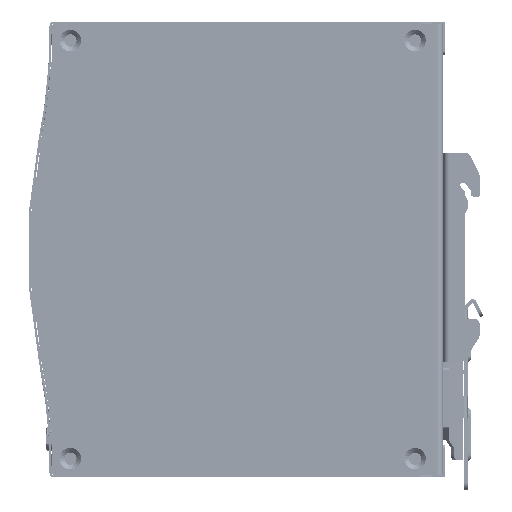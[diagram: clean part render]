
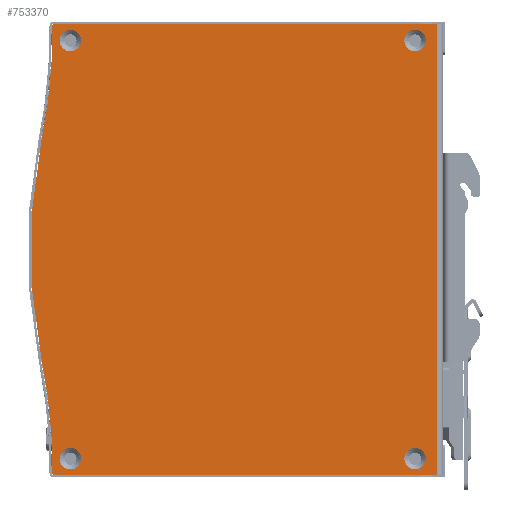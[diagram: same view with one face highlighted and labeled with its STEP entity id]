
A CAD part, front view. The second image highlights one B-rep face of the part: STEP entity #753370.
In plain terms, the highlighted planar face has unit normal (0, -1, 0).
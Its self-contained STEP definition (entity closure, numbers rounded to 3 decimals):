
#747020=CARTESIAN_POINT('',(-8.439,13.236,-50.));
#747030=DIRECTION('',(1.,0.,0.));
#747040=VECTOR('',#747030,1.);
#747050=LINE('',#747020,#747040);
#747060=CARTESIAN_POINT('',(-9.439,13.236,-50.));
#747070=VERTEX_POINT('',#747060);
#747080=CARTESIAN_POINT('',(95.953,13.236,-50.));
#747090=VERTEX_POINT('',#747080);
#747100=EDGE_CURVE('',#747070,#747090,#747050,.T.);
#748290=CARTESIAN_POINT('',(-12.964,13.236,-18.01
));
#748300=VERTEX_POINT('',#748290);
#748330=CARTESIAN_POINT('',(-159.932,13.236,
-48.019));
#748340=DIRECTION('',(0.,1.,0.));
#748350=DIRECTION('',(0.98,0.,0.2));
#748360=AXIS2_PLACEMENT_3D('',#748330,#748340,#748350);
#748370=CIRCLE('',#748360,150.);
#748380=CARTESIAN_POINT('',(-9.939,13.236,
-49.495));
#748390=VERTEX_POINT('',#748380);
#748400=EDGE_CURVE('',#748300,#748390,#748370,.T.);
#751960=CARTESIAN_POINT('',(95.953,13.236,74.));
#751970=VERTEX_POINT('',#751960);
#752000=CARTESIAN_POINT('',(-8.439,13.236,74.));
#752010=DIRECTION('',(1.,0.,0.));
#752020=VECTOR('',#752010,1.);
#752030=LINE('',#752000,#752020);
#752040=CARTESIAN_POINT('',(-9.439,13.236,74.));
#752050=VERTEX_POINT('',#752040);
#752060=EDGE_CURVE('',#752050,#751970,#752030,.T.);
#752220=CARTESIAN_POINT('',(-9.439,13.236,-49.5));
#752230=DIRECTION('',(0.,-1.,0.));
#752240=DIRECTION('',(-1.,0.,0.));
#752250=AXIS2_PLACEMENT_3D('',#752220,#752230,#752240);
#752260=CIRCLE('',#752250,0.5);
#752270=EDGE_CURVE('',#748390,#747070,#752260,.T.);
#752350=CARTESIAN_POINT('',(-13.667,13.236,0.));
#752360=DIRECTION('',(0.,-1.,0.));
#752370=DIRECTION('',(0.,0.,-1.));
#752380=AXIS2_PLACEMENT_3D('',#752350,#752360,#752370);
#752390=PLANE('',#752380);
#752400=CARTESIAN_POINT('',(-4.997,13.236,69.5
));
#752410=DIRECTION('',(0.,-1.,0.));
#752420=DIRECTION('',(-1.,0.,0.));
#752430=AXIS2_PLACEMENT_3D('',#752400,#752410,#752420);
#752440=CIRCLE('',#752430,2.951);
#752450=CARTESIAN_POINT('',(-7.948,13.236,69.5
));
#752460=VERTEX_POINT('',#752450);
#752470=CARTESIAN_POINT('',(-2.046,13.236,69.5
));
#752480=VERTEX_POINT('',#752470);
#752490=EDGE_CURVE('',#752460,#752480,#752440,.T.);
#752500=ORIENTED_EDGE('',*,*,#752490,.F.);
#752510=EDGE_CURVE('',#752480,#752460,#752440,.T.);
#752520=ORIENTED_EDGE('',*,*,#752510,.F.);
#752530=EDGE_LOOP('',(#752520,#752500));
#752540=FACE_BOUND('',#752530,.T.);
#752550=CARTESIAN_POINT('',(89.803,13.236,69.5)
);
#752560=DIRECTION('',(0.,-1.,0.));
#752570=DIRECTION('',(-1.,0.,0.));
#752580=AXIS2_PLACEMENT_3D('',#752550,#752560,#752570);
#752590=CIRCLE('',#752580,2.951);
#752600=CARTESIAN_POINT('',(86.851,13.236,69.5)
);
#752610=VERTEX_POINT('',#752600);
#752620=CARTESIAN_POINT('',(92.754,13.236,69.5)
);
#752630=VERTEX_POINT('',#752620);
#752640=EDGE_CURVE('',#752610,#752630,#752590,.T.);
#752650=ORIENTED_EDGE('',*,*,#752640,.F.);
#752660=EDGE_CURVE('',#752630,#752610,#752590,.T.);
#752670=ORIENTED_EDGE('',*,*,#752660,.F.);
#752680=EDGE_LOOP('',(#752670,#752650));
#752690=FACE_BOUND('',#752680,.T.);
#752700=CARTESIAN_POINT('',(-4.997,13.236,
-45.5));
#752710=DIRECTION('',(0.,-1.,0.));
#752720=DIRECTION('',(-1.,0.,0.));
#752730=AXIS2_PLACEMENT_3D('',#752700,#752710,#752720);
#752740=CIRCLE('',#752730,2.951);
#752750=CARTESIAN_POINT('',(-7.948,13.236,
-45.5));
#752760=VERTEX_POINT('',#752750);
#752770=CARTESIAN_POINT('',(-2.046,13.236,
-45.5));
#752780=VERTEX_POINT('',#752770);
#752790=EDGE_CURVE('',#752760,#752780,#752740,.T.);
#752800=ORIENTED_EDGE('',*,*,#752790,.F.);
#752810=EDGE_CURVE('',#752780,#752760,#752740,.T.);
#752820=ORIENTED_EDGE('',*,*,#752810,.F.);
#752830=EDGE_LOOP('',(#752820,#752800));
#752840=FACE_BOUND('',#752830,.T.);
#752850=CARTESIAN_POINT('',(89.803,13.236,-45.5
));
#752860=DIRECTION('',(0.,-1.,0.));
#752870=DIRECTION('',(-1.,0.,0.));
#752880=AXIS2_PLACEMENT_3D('',#752850,#752860,#752870);
#752890=CIRCLE('',#752880,2.951);
#752900=CARTESIAN_POINT('',(86.851,13.236,-45.5
));
#752910=VERTEX_POINT('',#752900);
#752920=CARTESIAN_POINT('',(92.754,13.236,-45.5
));
#752930=VERTEX_POINT('',#752920);
#752940=EDGE_CURVE('',#752910,#752930,#752890,.T.);
#752950=ORIENTED_EDGE('',*,*,#752940,.F.);
#752960=EDGE_CURVE('',#752930,#752910,#752890,.T.);
#752970=ORIENTED_EDGE('',*,*,#752960,.F.);
#752980=EDGE_LOOP('',(#752970,#752950));
#752990=FACE_BOUND('',#752980,.T.);
#753000=ORIENTED_EDGE('',*,*,#752270,.T.);
#753010=ORIENTED_EDGE('',*,*,#748400,.T.);
#753020=CARTESIAN_POINT('',(134.003,13.236,12.)
);
#753030=DIRECTION('',(0.,-1.,0.));
#753040=DIRECTION('',(-0.98,0.,0.2));
#753050=AXIS2_PLACEMENT_3D('',#753020,#753030,#753040);
#753060=CIRCLE('',#753050,150.);
#753070=CARTESIAN_POINT('',(-12.964,13.236,42.01
));
#753080=VERTEX_POINT('',#753070);
#753090=EDGE_CURVE('',#753080,#748300,#753060,.T.);
#753100=ORIENTED_EDGE('',*,*,#753090,.T.);
#753110=CARTESIAN_POINT('',(-159.932,13.236,72.019
));
#753120=DIRECTION('',(0.,1.,0.));
#753130=DIRECTION('',(1.,0.,0.01));
#753140=AXIS2_PLACEMENT_3D('',#753110,#753120,#753130);
#753150=CIRCLE('',#753140,150.);
#753160=CARTESIAN_POINT('',(-9.939,13.236,73.495
));
#753170=VERTEX_POINT('',#753160);
#753180=EDGE_CURVE('',#753170,#753080,#753150,.T.);
#753190=ORIENTED_EDGE('',*,*,#753180,.T.);
#753200=CARTESIAN_POINT('',(-9.439,13.236,73.5));
#753210=DIRECTION('',(0.,-1.,0.));
#753220=DIRECTION('',(-1.,0.,0.));
#753230=AXIS2_PLACEMENT_3D('',#753200,#753210,#753220);
#753240=CIRCLE('',#753230,0.5);
#753250=EDGE_CURVE('',#752050,#753170,#753240,.T.);
#753260=ORIENTED_EDGE('',*,*,#753250,.T.);
#753270=ORIENTED_EDGE('',*,*,#752060,.F.);
#753280=CARTESIAN_POINT('',(95.953,13.236,74.));
#753290=DIRECTION('',(0.,0.,-1.));
#753300=VECTOR('',#753290,1.);
#753310=LINE('',#753280,#753300);
#753320=EDGE_CURVE('',#751970,#747090,#753310,.T.);
#753330=ORIENTED_EDGE('',*,*,#753320,.F.);
#753340=ORIENTED_EDGE('',*,*,#747100,.T.);
#753350=EDGE_LOOP('',(#753340,#753330,#753270,#753260,#753190,#753100,
#753010,#753000));
#753360=FACE_OUTER_BOUND('',#753350,.T.);
#753370=ADVANCED_FACE('',(#752540,#752690,#752840,#752990,#753360),
#752390,.T.);
